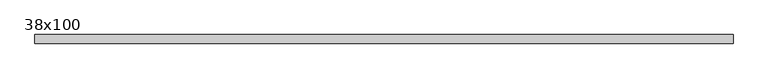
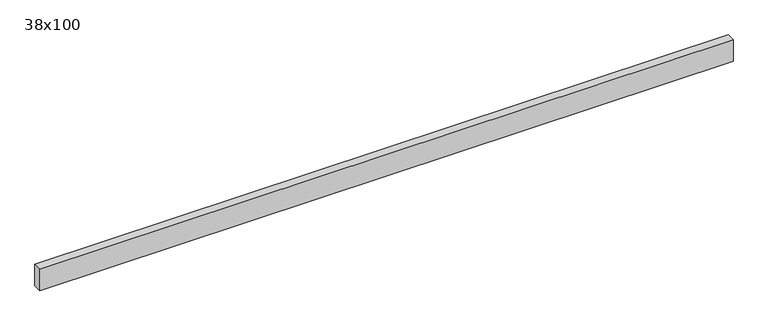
"""IFC4 building model written with IfcOpenShell, lengths in millimetres: beam geometry, Poutre - Bois de construction de dimensions courantes : 38x100."""

from ifc_helpers import new_model, si_unit, frame, origin, place, context, project, spatial, polyline, outline, extrude, source, transform, mapped, element, save


def beam_38x100_7567a306(model_context):
    return source(origin(), model_context, "Body", "SweptSolid", [
        extrude(outline(polyline([(1540.5, 19.05), (1540.5, -19.05), (-1540.5, -19.05), (-1540.5, 19.05), (1540.5, 19.05)])), frame((0.0, 0.0, -50.0), z_axis=(0.0, 0.0, 1.0), x_axis=(1.0, 0.0, 0.0)), (0.0, 0.0, 1.0), 100.0),
    ])


if __name__ == "__main__":
    model = new_model("IFC4")
    model_context = context("Model", 3, world=origin())
    ifc_project = project(units=[si_unit("LENGTHUNIT", "METRE", prefix="MILLI")], contexts=[model_context])
    site = spatial("IfcSite", under=ifc_project)
    building = spatial("IfcBuilding", under=site)
    placement = place(None, origin())
    beam_38x100_shape = beam_38x100_7567a306(model_context)
    element("IfcBeam", 1, ObjectType="Poutre - Bois de construction de dimensions courantes : 38x100", at=placement, inside=building, context=model_context, shape_type="MappedRepresentation", body=[
        mapped(beam_38x100_shape, transform((0.0, 0.0, 0.0), x_axis=(1.0, 0.0, 0.0), y_axis=(0.0, 1.0, 0.0), z_axis=(0.0, 0.0, 1.0))),
    ])
    save(model, "model.ifc")
